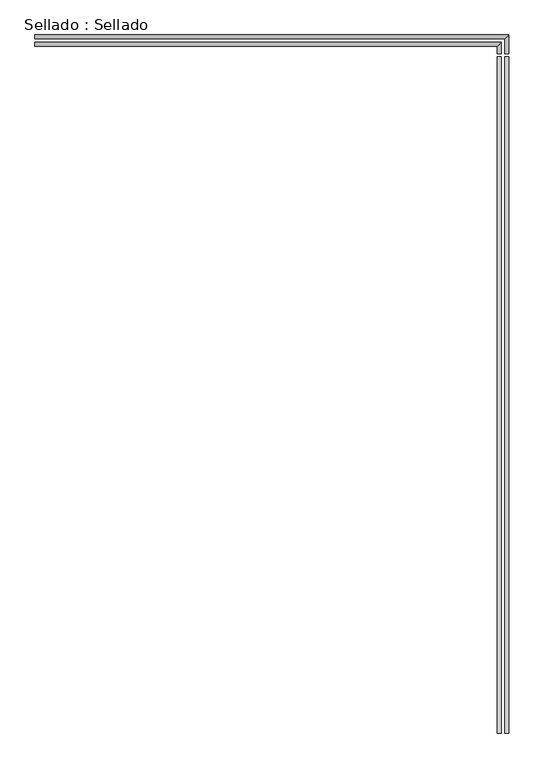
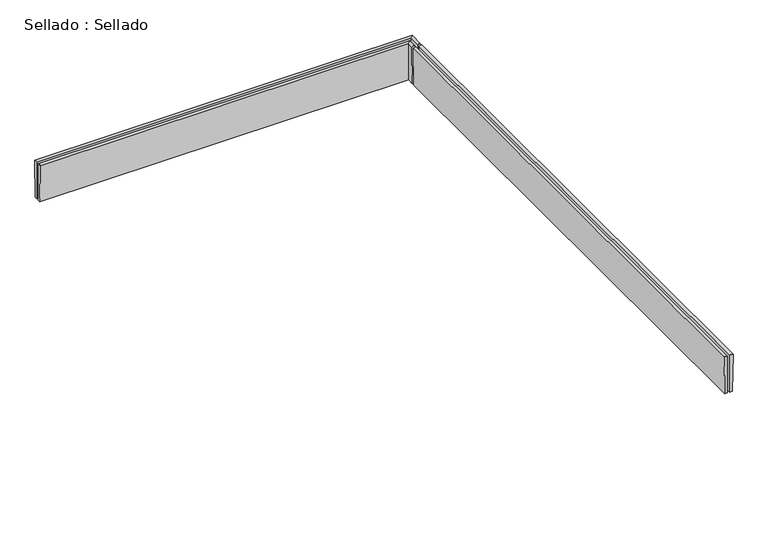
"""IFC4 building model written with IfcOpenShell, lengths in millimetres: proxy geometry, Sellado : Sellado."""

from ifc_helpers import new_model, si_unit, point, frame, frame_2d, origin, place, context, project, spatial, polyline, circle_curve, ellipse_curve, trimmed, segment, composite_curve, outline, extrude, source, transform, mapped, element, save
from ifc_brep_helpers import plane_surface, cylinder_surface, advanced_brep


def sellado_sellado_c16e03ff(model_context):
    return source(origin(), model_context, "Body", "SolidModel", [
        extrude(outline(composite_curve([segment(polyline([(850.0, 7932.7202663), (850.0, 7942.7202663), (1000.0, 7942.7202663)]), True, "CONTINUOUS"), segment(trimmed(circle_curve(frame_2d((992.8109079, 7936.4702663)), 9.5260457), [point((1000.0, 7942.7202663))], [point((1000.0, 7930.2202663))], False, "CARTESIAN"), True, "CONTINUOUS"), segment(polyline([(1000.0, 7930.2202663), (850.0, 7932.7202663)]), True, "CONTINUOUS")], self_intersect=False)), frame((0.0, 14924.5302953, 0.0), z_axis=(0.0, 1.0, 0.0), x_axis=(0.0, 0.0, 1.0)), (0.0, 0.0, 1.0), 2080.0),
        extrude(outline(composite_curve([segment(polyline([(850.0, 7962.7202663), (1000.0, 7965.2202663)]), True, "CONTINUOUS"), segment(trimmed(circle_curve(frame_2d((992.8109079, 7958.9702663)), 9.5260457), [point((1000.0, 7965.2202663))], [point((1000.0, 7952.7202663))], False, "CARTESIAN"), True, "CONTINUOUS"), segment(polyline([(1000.0, 7952.7202663), (850.0, 7952.7202663), (850.0, 7962.7202663)]), True, "CONTINUOUS")], self_intersect=False)), frame((0.0, 14924.5302953, 0.0), z_axis=(0.0, 1.0, 0.0), x_axis=(0.0, 0.0, 1.0)), (0.0, 0.0, 1.0), 2080.0),
        advanced_brep(
        [(6507.7202663, 17039.5302953, 850.0), (6507.7202663, 17037.0302953, 1000.0), (6507.7202663, 17049.5302953, 1000.0), (6507.7202663, 17049.5302953, 850.0), (7932.7202663, 17039.5302953, 850.0), (7930.2202663, 17037.0302953, 1000.0), (7942.7202663, 17049.5302953, 1000.0), (7942.7202663, 17049.5302953, 850.0), (7942.7202663, 17014.5302953, 850.0), (7932.7202663, 17014.5302953, 850.0), (7942.7202663, 17014.5302953, 1000.0), (7930.2202663, 17014.5302953, 1000.0)],
        [
            (0, 1),
            (1, 2, circle_curve(frame((6507.7202663, 17043.2802953, 992.8109079), z_axis=(-1.0, 0.0, 0.0), x_axis=(0.0, 0.0, -1.0)), 9.5260457)),
            (2, 3),
            (3, 0),
            (0, 4),
            (4, 5),
            (5, 1),
            (5, 6, ellipse_curve(frame((7936.4702663, 17043.2802953, 992.8109079), z_axis=(-0.7071067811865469, 0.707106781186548, 0.0), x_axis=(-0.7071067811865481, -0.7071067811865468, 0.0)), 13.471863, 9.5260457)),
            (6, 2),
            (6, 7),
            (7, 3),
            (7, 8),
            (8, 9),
            (9, 4),
            (8, 10),
            (10, 11, circle_curve(frame((7936.4702663, 17014.5302953, 992.8109079), z_axis=(0.0, -1.0, 0.0), x_axis=(0.0, 0.0, -1.0)), 9.5260457)),
            (11, 9),
            (11, 5),
            (10, 6),
        ],
        [
            plane_surface(frame((6507.7202663, 17037.0302953, 1000.0), z_axis=(-1.0, 0.0, 0.0), x_axis=(0.0, 0.0, 1.0))),
            plane_surface(frame((6507.7202663, 17039.5302953, 850.0), z_axis=(0.0, -0.9998611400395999, -0.016664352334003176), x_axis=(1.0, 0.0, 0.0))),
            cylinder_surface(frame((6507.7202663, 17043.2802953, 992.8109079), z_axis=(-1.0, 0.0, 0.0), x_axis=(0.0, 0.0, -1.0)), 9.5260457),
            plane_surface(frame((6507.7202663, 17049.5302953, 1000.0), z_axis=(0.0, 1.0, 0.0), x_axis=(1.0, 0.0, 0.0))),
            plane_surface(frame((6507.7202663, 17049.5302953, 850.0), z_axis=(0.0, 0.0, -1.0), x_axis=(1.0, 0.0, 0.0))),
            plane_surface(frame((7930.2202663, 17014.5302953, 1000.0), z_axis=(0.0, -1.0, 0.0), x_axis=(0.0, 0.0, 1.0))),
            plane_surface(frame((7932.7202663, 17039.5302953, 850.0), z_axis=(-0.9998611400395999, 0.0, -0.016664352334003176), x_axis=(0.0, -1.0, 0.0))),
            cylinder_surface(frame((7936.4702663, 17037.0302953, 992.8109079), z_axis=(0.0, 1.0, 0.0), x_axis=(0.0, 0.0, -1.0)), 9.5260457),
            plane_surface(frame((7942.7202663, 17049.5302953, 1000.0), z_axis=(1.0, 0.0, 0.0), x_axis=(0.0, -1.0, 0.0))),
        ],
        [
            (0, [[1, 2, 3, 4]]),
            (1, [[-1, 5, 6, 7]]),
            (2, [[-2, -7, 8, 9]]),
            (3, [[-3, -9, 10, 11]]),
            (4, [[-4, -11, 12, 13, 14, -5]]),
            (5, [[-13, 15, 16, 17]]),
            (6, [[-6, -14, -17, 18]]),
            (7, [[-8, -18, -16, 19]]),
            (8, [[-10, -19, -15, -12]]),
        ],
    ),
        advanced_brep(
        [(6507.7202663, 17069.5302953, 850.0), (6507.7202663, 17059.5302953, 850.0), (6507.7202663, 17059.5302953, 1000.0), (6507.7202663, 17072.0302953, 1000.0), (7962.7202663, 17069.5302953, 850.0), (7962.7202663, 17014.5302953, 850.0), (7952.7202663, 17014.5302953, 850.0), (7952.7202663, 17059.5302953, 850.0), (7952.7202663, 17059.5302953, 1000.0), (7965.2202663, 17072.0302953, 1000.0), (7965.2202663, 17014.5302953, 1000.0), (7952.7202663, 17014.5302953, 1000.0)],
        [
            (0, 1),
            (1, 2),
            (2, 3, circle_curve(frame((6507.7202663, 17065.7802953, 992.8109079), z_axis=(-1.0, 0.0, 0.0), x_axis=(0.0, 0.0, -1.0)), 9.5260457)),
            (3, 0),
            (0, 4),
            (4, 5),
            (5, 6),
            (6, 7),
            (7, 1),
            (7, 8),
            (8, 2),
            (8, 9, ellipse_curve(frame((7958.9702663, 17065.7802953, 992.8109079), z_axis=(-0.7071067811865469, 0.707106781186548, 0.0), x_axis=(-0.7071067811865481, -0.7071067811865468, 0.0)), 13.471863, 9.5260457)),
            (9, 3),
            (9, 4),
            (5, 10),
            (10, 11, circle_curve(frame((7958.9702663, 17014.5302953, 992.8109079), z_axis=(0.0, -1.0, 0.0), x_axis=(0.0, 0.0, -1.0)), 9.5260457)),
            (11, 6),
            (11, 8),
            (10, 9),
        ],
        [
            plane_surface(frame((6507.7202663, 17037.0302953, 1000.0), z_axis=(-1.0, 0.0, 0.0), x_axis=(0.0, 0.0, 1.0))),
            plane_surface(frame((6507.7202663, 17069.5302953, 850.0), z_axis=(0.0, 0.0, -1.0), x_axis=(1.0, 0.0, 0.0))),
            plane_surface(frame((6507.7202663, 17059.5302953, 850.0), z_axis=(0.0, -1.0, 0.0), x_axis=(1.0, 0.0, 0.0))),
            cylinder_surface(frame((6507.7202663, 17065.7802953, 992.8109079), z_axis=(-1.0, 0.0, 0.0), x_axis=(0.0, 0.0, -1.0)), 9.5260457),
            plane_surface(frame((6507.7202663, 17072.0302953, 1000.0), z_axis=(0.0, 0.9998611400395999, -0.016664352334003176), x_axis=(1.0, 0.0, 0.0))),
            plane_surface(frame((7930.2202663, 17014.5302953, 1000.0), z_axis=(0.0, -1.0, 0.0), x_axis=(0.0, 0.0, 1.0))),
            plane_surface(frame((7952.7202663, 17059.5302953, 850.0), z_axis=(-1.0, 0.0, 0.0), x_axis=(0.0, -1.0, 0.0))),
            cylinder_surface(frame((7958.9702663, 17037.0302953, 992.8109079), z_axis=(0.0, 1.0, 0.0), x_axis=(0.0, 0.0, -1.0)), 9.5260457),
            plane_surface(frame((7965.2202663, 17072.0302953, 1000.0), z_axis=(0.9998611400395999, 0.0, -0.016664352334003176), x_axis=(0.0, -1.0, 0.0))),
        ],
        [
            (0, [[1, 2, 3, 4]]),
            (1, [[-1, 5, 6, 7, 8, 9]]),
            (2, [[-2, -9, 10, 11]]),
            (3, [[-3, -11, 12, 13]]),
            (4, [[-4, -13, 14, -5]]),
            (5, [[15, 16, 17, -7]]),
            (6, [[-10, -8, -17, 18]]),
            (7, [[-12, -18, -16, 19]]),
            (8, [[-14, -19, -15, -6]]),
        ],
    ),
    ])


if __name__ == "__main__":
    model = new_model("IFC4")
    model_context = context("Model", 3, world=origin())
    ifc_project = project(units=[si_unit("LENGTHUNIT", "METRE", prefix="MILLI")], contexts=[model_context])
    site = spatial("IfcSite", under=ifc_project)
    building = spatial("IfcBuilding", under=site)
    placement = place(None, origin())
    sellado_sellado_shape = sellado_sellado_c16e03ff(model_context)
    element("IfcBuildingElementProxy", 1, Name="Sellado : Sellado", ObjectType="Sellado : Sellado", at=placement, inside=building, context=model_context, shape_type="MappedRepresentation", body=[
        mapped(sellado_sellado_shape, transform((0.0, 0.0, 0.0), x_axis=(1.0, 0.0, 0.0), y_axis=(0.0, 1.0, 0.0), z_axis=(0.0, 0.0, 1.0))),
    ])
    save(model, "model.ifc")
